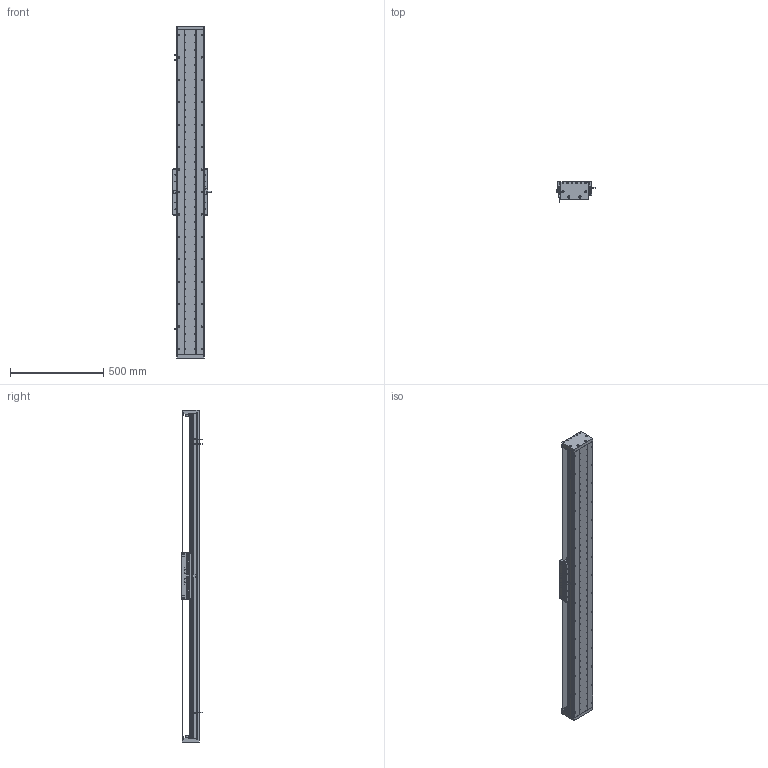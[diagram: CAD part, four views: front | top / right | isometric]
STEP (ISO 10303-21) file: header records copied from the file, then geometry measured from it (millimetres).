
FILE_DESCRIPTION (( 'STEP AP203' ), '1' );
FILE_NAME ('DA-C145-C3-T1440-C010-0.2 眻盄萇儂.STEP', '2025-08-14T01:24:01', ( '' ), ( '' ), 'SwSTEP 2.0', 'SolidWorks 2019', '' );
FILE_SCHEMA (( 'CONFIG_CONTROL_DESIGN' ));
Length unit declared in the file: millimetre
Products named in the file (32): DA-C145-C3-T1440-C010-0.2 眻盄萇儂; 复件 DA145-GYP-00 光电感应片^DA-C145-C3-T-C010-0.2; 复件 纯铜油杯 6x6mm^CU145-W 滚珠滑台; 复件 DA146 钢带垫块^复件 CU145 钢带组件_DA-C145-C3-T-C010-0.2; 葩璃 DA95-HXJ-00 遣喳砎蝶^DA-C145-C3-T-C010-0.2; 66245-CU145-HT-W-00 賑雄怢啣(3D芞祧)(00); 复件 DA145-DG 钢带端盖^复件 CU145 钢带组件_DA-C145-C3-T-C010-0.2; 复件 DA95-MFP-01 密封片^CU145-W 滚珠滑台; 葩璃 CKMA01-W060-TRL^DA-C145-C3-T-C010-0.2; IU-CU145-L 菁釱絳寢; 葩璃 DA145-C3-DP-A-00 菜えA^CU145-W 幗紩賑怢; 葩璃 CU145 詩湍郪璃^DA-C145-C3-T-C010-0.2; 葩璃 CKM03-W060-C1C2-TP-0.2^DA-C145-C3-T-C010-0.2; TAY01-M8; 复件 DA95-HK-GT-00 滑块钢轨^CU145-W-00 一体化滑动台板; 复件 DA145-C3-YB-B-00 压板B^CU145-W 滚珠滑台; CU145-W-00 珨极趙賑雄怢啣; 复件 内六角平端紧定螺钉 GB.T77-2000 M5×10^CU145-W 滚珠滑台; 复件 半圆头内六角螺钉 M3×6^CU145-W 滚珠滑台; 葩璃 DMA-010-0.2 黍杅芛^DA-C145-C3-T-C010-0.2; 葩璃 DA95-GT-T-00^IU-CU145-L 菁釱絳寢; 复件 DA95-DB-00  挡板^CU145-W 滚珠滑台; 复件 DA145 钢带^复件 CU145 钢带组件_DA-C145-C3-T-C010-0.2; 复件 DA145-C3-YB-A-00 压板A^CU145-W 滚珠滑台; 复件 DA145-C3-DK-00 挡块^CU145-W 滚珠滑台; 葩璃 PM-T45^DA-C145-C3-T-C010-0.2; 葩璃 DA145-C3-DP-B-00 菜えB^CU145-W 幗紩賑怢; CU145-W 幗紩賑怢; 复件 DA146 钢带拉块^复件 CU145 钢带组件_DA-C145-C3-T-C010-0.2; 葩璃 XD-U-02L 棠掑喜^DA-C145-C3-T-C010-0.2; 葩璃 鞠褒情蹟譫 M3^DA-C145-C3-T-C010-0.2; IU-CU145-L-00 菁釱(L1740)
Assembly tree (103 placements, depth 4):
  DA-C145-C3-T1440-C010-0.2 眻盄萇儂
    IU-CU145-L 菁釱絳寢
      IU-CU145-L-00 菁釱(L1740)
      葩璃 DA95-GT-T-00^IU-CU145-L 菁釱絳寢  x4
    葩璃 CU145 詩湍郪璃^DA-C145-C3-T-C010-0.2
      复件 DA145-DG 钢带端盖^复件 CU145 钢带组件_DA-C145-C3-T-C010-0.2  x2
      复件 DA146 钢带拉块^复件 CU145 钢带组件_DA-C145-C3-T-C010-0.2  x2
      复件 DA146 钢带垫块^复件 CU145 钢带组件_DA-C145-C3-T-C010-0.2  x2
      复件 DA145 钢带^复件 CU145 钢带组件_DA-C145-C3-T-C010-0.2
    CU145-W 幗紩賑怢
      CU145-W-00 珨极趙賑雄怢啣
        66245-CU145-HT-W-00 賑雄怢啣(3D芞祧)(00)
        复件 DA95-HK-GT-00 滑块钢轨^CU145-W-00 一体化滑动台板  x8
      复件 DA95-MFP-01 密封片^CU145-W 滚珠滑台  x8
      复件 DA95-DB-00  挡板^CU145-W 滚珠滑台  x8
      复件 内六角平端紧定螺钉 GB.T77-2000 M5×10^CU145-W 滚珠滑台  x4
      复件 纯铜油杯 6x6mm^CU145-W 滚珠滑台  x4
      复件 半圆头内六角螺钉 M3×6^CU145-W 滚珠滑台  x16
      复件 DA145-C3-DK-00 挡块^CU145-W 滚珠滑台  x4
      葩璃 DA145-C3-DP-B-00 菜えB^CU145-W 幗紩賑怢  x2
      复件 DA145-C3-YB-B-00 压板B^CU145-W 滚珠滑台  x2
      葩璃 DA145-C3-DP-A-00 菜えA^CU145-W 幗紩賑怢  x3
      复件 DA145-C3-YB-A-00 压板A^CU145-W 滚珠滑台  x3
      TAY01-M8  x4
    葩璃 CKMA01-W060-TRL^DA-C145-C3-T-C010-0.2
    葩璃 PM-T45^DA-C145-C3-T-C010-0.2  x3
    葩璃 XD-U-02L 棠掑喜^DA-C145-C3-T-C010-0.2
    葩璃 DA95-HXJ-00 遣喳砎蝶^DA-C145-C3-T-C010-0.2  x4
    复件 DA145-GYP-00 光电感应片^DA-C145-C3-T-C010-0.2
    葩璃 DMA-010-0.2 黍杅芛^DA-C145-C3-T-C010-0.2
    葩璃 CKM03-W060-C1C2-TP-0.2^DA-C145-C3-T-C010-0.2
    葩璃 鞠褒情蹟譫 M3^DA-C145-C3-T-C010-0.2  x8
Bounding box: 203.5 x 108.45 x 1776 mm (x, y, z)
Volume: 9110001.3 mm3; surface area: 2933205.2 mm2
Topology: 99 solids, 131 shells, 4324 faces, 11888 edges, 7390 vertices
Faces by surface type: cylinder 1974, plane 1582, cone 690, torus 74, sphere 4
Entity records: 107762 total; most frequent: CARTESIAN_POINT 29604, ORIENTED_EDGE 15296, DIRECTION 15095, EDGE_CURVE 7648, AXIS2_PLACEMENT_3D 5652, VERTEX_POINT 4929, LINE 3791, VECTOR 3791
